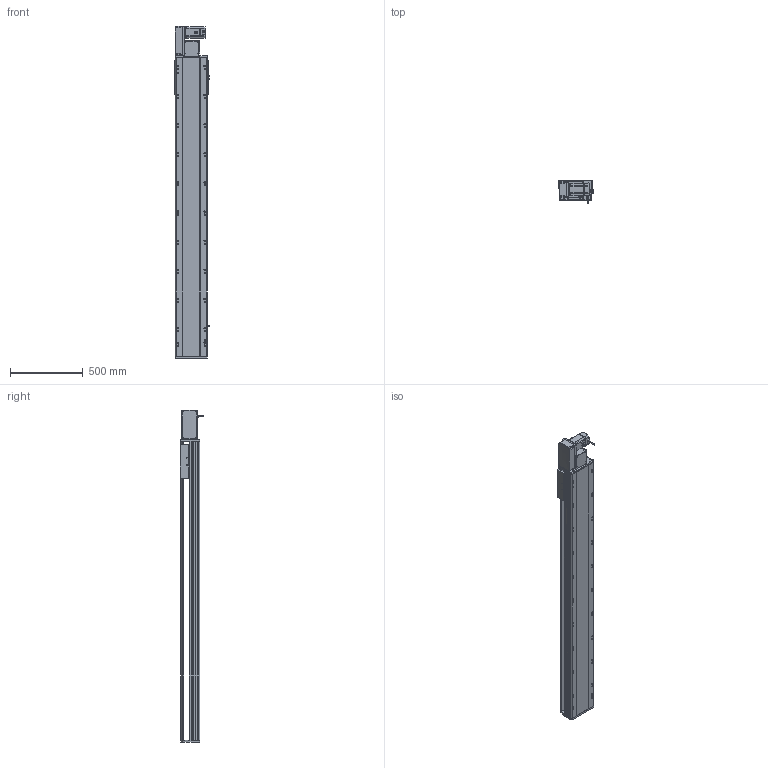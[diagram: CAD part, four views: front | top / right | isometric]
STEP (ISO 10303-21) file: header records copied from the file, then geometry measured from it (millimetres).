
FILE_DESCRIPTION (( 'STEP AP214' ), '1' );
FILE_NAME ('RTB22S-XX-1700-L-M75-C4.STEP', '2025-12-12T03:22:16', ( '' ), ( '' ), 'SwSTEP 2.0', 'SolidWorks 2018', '' );
FILE_SCHEMA (( 'AUTOMOTIVE_DESIGN' ));
Length unit declared in the file: millimetre
Products named in the file (14): 750W萇儂^RTB22S-XX-XX-L-M75-C4; RTB22S-GY-001耜裔^RTB22S-XX-XX-L-M75-C4; OMRON EE-SX672 传感器^RTB22S-XX-XX-L-M75-C4; RTB22S-L-011菁釱^RTB22S-XX-XX-L-M75-C4; RTB22S-GY-008-M75--萇儂啣^RTB22S-L-々湍釱蚾饜_RTB22S-XX-XX-L-M75-C4; RTB22S-GY-007奻裔^RTB22S-XX-XX-L-M75-C4; RTB22S-GY-005P^RTB22S-L-々湍釱蚾饜_RTB22S-XX-XX-L-M75-C4; RTB22S-XX-1700-L-M75-C4; RTB22S-GY-014--々湍釱^RTB22S-L-々湍釱蚾饜_RTB22S-XX-XX-L-M75-C4; RTB22S-L-004賑釱^RTB22S-XX-XX-L-M75-C4; RTB22S-GY-018P^RTB22S-L-々湍釱蚾饜_RTB22S-XX-XX-L-M75-C4; RTH22-GY-013外置感应片^RTB22S-XX-XX-L-M75-C4; RTB22S-L-々湍釱蚾饜^RTB22S-XX-XX-L-M75-C4; RTB22S-GY-017P^RTB22S-L-々湍釱蚾饜_RTB22S-XX-XX-L-M75-C4
Assembly tree (16 placements, depth 3):
  RTB22S-XX-1700-L-M75-C4
    RTB22S-L-011菁釱^RTB22S-XX-XX-L-M75-C4
    750W萇儂^RTB22S-XX-XX-L-M75-C4
    RTB22S-L-004賑釱^RTB22S-XX-XX-L-M75-C4
    OMRON EE-SX672 传感器^RTB22S-XX-XX-L-M75-C4  x3
    RTH22-GY-013外置感应片^RTB22S-XX-XX-L-M75-C4
    RTB22S-GY-007奻裔^RTB22S-XX-XX-L-M75-C4
    RTB22S-GY-001耜裔^RTB22S-XX-XX-L-M75-C4
    RTB22S-L-々湍釱蚾饜^RTB22S-XX-XX-L-M75-C4
      RTB22S-GY-014--々湍釱^RTB22S-L-々湍釱蚾饜_RTB22S-XX-XX-L-M75-C4
      RTB22S-GY-017P^RTB22S-L-々湍釱蚾饜_RTB22S-XX-XX-L-M75-C4  x2
      RTB22S-GY-005P^RTB22S-L-々湍釱蚾饜_RTB22S-XX-XX-L-M75-C4
      RTB22S-GY-008-M75--萇儂啣^RTB22S-L-々湍釱蚾饜_RTB22S-XX-XX-L-M75-C4
      RTB22S-GY-018P^RTB22S-L-々湍釱蚾饜_RTB22S-XX-XX-L-M75-C4
Bounding box: 238.5 x 162.7 x 2279 mm (x, y, z)
Volume: 29442810.7 mm3; surface area: 3032242.7 mm2
Topology: 15 solids, 15 shells, 2037 faces, 5536 edges, 3542 vertices
Faces by surface type: plane 921, cylinder 658, bspline 296, cone 150, sphere 8, torus 4
Entity records: 54742 total; most frequent: CARTESIAN_POINT 15616, ORIENTED_EDGE 7836, DIRECTION 7592, EDGE_CURVE 3918, AXIS2_PLACEMENT_3D 2698, VERTEX_POINT 2546, VECTOR 2196, LINE 2196
